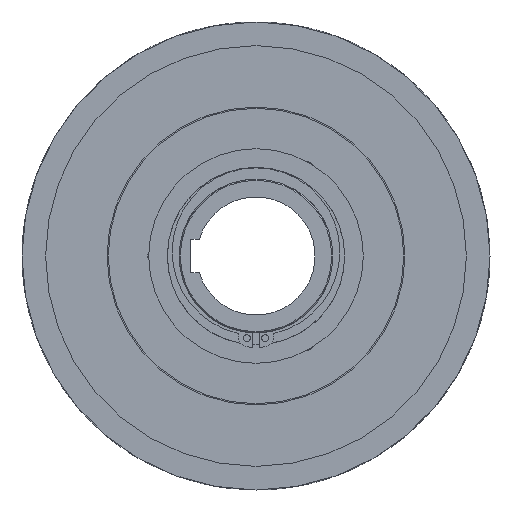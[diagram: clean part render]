
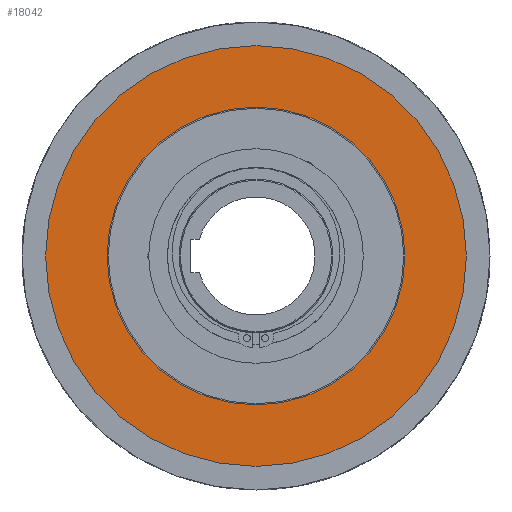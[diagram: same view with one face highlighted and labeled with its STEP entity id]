
A CAD part, left-side view. The second image highlights one B-rep face of the part: STEP entity #18042.
In plain terms, the highlighted planar face has unit normal (-1, 0, 0).
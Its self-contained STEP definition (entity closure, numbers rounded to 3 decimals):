
#772=FACE_BOUND('',#3728,.T.);
#2401=PLANE('',#19159);
#2716=FACE_OUTER_BOUND('',#3727,.T.);
#3727=EDGE_LOOP('',(#11987));
#3728=EDGE_LOOP('',(#11988));
#4928=CIRCLE('',#19158,63.);
#4929=CIRCLE('',#19160,89.);
#7049=VERTEX_POINT('',#64791);
#7050=VERTEX_POINT('',#64795);
#9015=EDGE_CURVE('',#7049,#7049,#4928,.T.);
#9016=EDGE_CURVE('',#7050,#7050,#4929,.T.);
#11987=ORIENTED_EDGE('',*,*,#9016,.F.);
#11988=ORIENTED_EDGE('',*,*,#9015,.T.);
#18042=ADVANCED_FACE('',(#2716,#772),#2401,.T.);
#19158=AXIS2_PLACEMENT_3D('',#64793,#21788,#21789);
#19159=AXIS2_PLACEMENT_3D('',#64794,#21790,#21791);
#19160=AXIS2_PLACEMENT_3D('',#64796,#21792,#21793);
#21788=DIRECTION('center_axis',(1.,0.,0.));
#21789=DIRECTION('ref_axis',(0.,1.,0.));
#21790=DIRECTION('center_axis',(-1.,0.,0.));
#21791=DIRECTION('ref_axis',(0.,0.,1.));
#21792=DIRECTION('center_axis',(1.,0.,0.));
#21793=DIRECTION('ref_axis',(0.,1.,0.));
#64791=CARTESIAN_POINT('',(-52.,-63.,0.));
#64793=CARTESIAN_POINT('Origin',(-52.,0.,0.));
#64794=CARTESIAN_POINT('Origin',(-52.,76.,0.));
#64795=CARTESIAN_POINT('',(-52.,-89.,0.));
#64796=CARTESIAN_POINT('Origin',(-52.,0.,0.));
